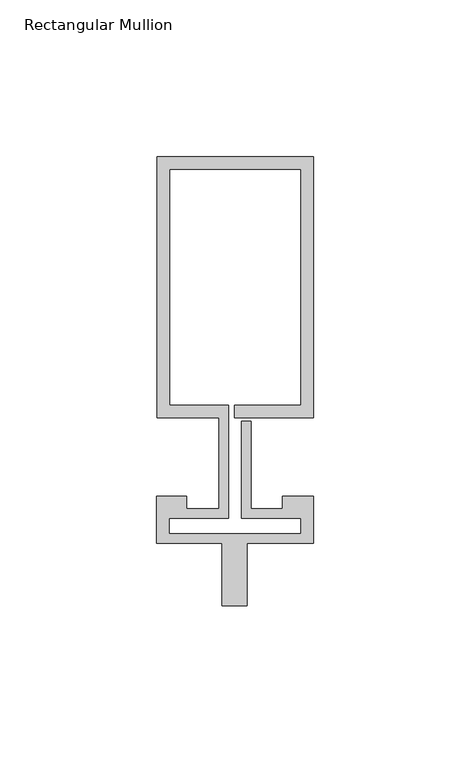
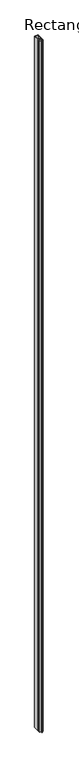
"""IFC4 building model written with IfcOpenShell, lengths in millimetres: member geometry, Rectangular Mullion : Reynaers_CW-50_Mullion-Transom_Vertical_83.5mm_Facecap-06A."""

import ifcopenshell
import ifcopenshell.guid

model = None  # the IFC model being written
_history = None  # IfcOwnerHistory: only IFC2X3 demands one
_inside = {}  # id of a spatial element -> (the spatial element, [elements in it])
_under = {}  # id of a project, library or spatial element -> (it, [spatial elements below it])
_declared = {}  # id of a project -> (the project, [libraries it declares])
_typed = {}  # id of a type object -> (the type object, [elements of that type])
_made_of = {}  # id of a material, layer set ... -> (it, [elements and type objects made of it])


def new_model(schema):
    """Start an empty IFC model of exactly this schema.

    Asked for "IFC4X3", IfcOpenShell would pick the latest addendum, in which some entities
    have other attributes; the version numbers below select the first issue.
    IFC2X3 requires an IfcOwnerHistory on every rooted entity: one is made here for all.
    """
    global model, _history
    if schema == "IFC4X3":
        model = ifcopenshell.file(schema_version=(4, 3, 0, 0))
    else:
        model = ifcopenshell.file(schema=schema)
    _inside.clear()
    _under.clear()
    _declared.clear()
    _typed.clear()
    _made_of.clear()
    _history = None
    if model.schema == "IFC2X3":
        org = make("IfcOrganization", Name="unknown")
        user = make(
            "IfcPersonAndOrganization",
            ThePerson=make("IfcPerson", FamilyName="unknown"),
            TheOrganization=org,
        )
        app = make(
            "IfcApplication",
            ApplicationDeveloper=org,
            Version="unknown",
            ApplicationFullName="unknown",
            ApplicationIdentifier="unknown",
        )
        _history = make(
            "IfcOwnerHistory",
            OwningUser=user,
            OwningApplication=app,
            ChangeAction="ADDED",
            CreationDate=0,
        )
    return model


def make(cls, **values):
    """One entity of the class cls with the attributes given. An attribute that is None is left unset."""
    return model.create_entity(
        cls, **{name: value for name, value in values.items() if value is not None}
    )


def rooted(cls, **values):
    """An entity with a GlobalId (a new one), such as an element, a storey or a relation."""
    return make(cls, GlobalId=ifcopenshell.guid.new(), OwnerHistory=_history, **values)


def si_unit(unit_type, name, prefix=None):
    """IfcSIUnit, for example si_unit("LENGTHUNIT", "METRE", prefix="MILLI")."""
    return make("IfcSIUnit", UnitType=unit_type, Prefix=prefix, Name=name)


def assignment(units):
    """IfcUnitAssignment: the units of a project."""
    return None if units is None else make("IfcUnitAssignment", Units=units)


def point(xyz):
    """IfcCartesianPoint."""
    return None if xyz is None else make("IfcCartesianPoint", Coordinates=xyz)


def direction(xyz):
    """IfcDirection."""
    return None if xyz is None else make("IfcDirection", DirectionRatios=xyz)


def frame(location, z_axis=None, x_axis=None):
    """IfcAxis2Placement3D, a coordinate frame: its origin and axes. An axis left out is left unset."""
    return make(
        "IfcAxis2Placement3D",
        Location=point(location),
        Axis=direction(z_axis),
        RefDirection=direction(x_axis),
    )


def origin():
    """The frame at (0, 0, 0) with its axes left unset."""
    return frame((0.0, 0.0, 0.0))


def place(relative_to, where):
    """IfcLocalPlacement: puts the frame where relative to a parent placement (None: the world)."""
    return make(
        "IfcLocalPlacement", PlacementRelTo=relative_to, RelativePlacement=where
    )


def context(
    kind, dimensions, precision=None, world=None, true_north=None, identifier=None
):
    """IfcGeometricRepresentationContext, for example the 3D "Model" context."""
    return make(
        "IfcGeometricRepresentationContext",
        ContextIdentifier=identifier,
        ContextType=kind,
        CoordinateSpaceDimension=dimensions,
        Precision=precision,
        WorldCoordinateSystem=world,
        TrueNorth=true_north,
    )


def project(units=None, contexts=None):
    """IfcProject with its units and contexts."""
    return rooted(
        "IfcProject",
        Name="project",
        RepresentationContexts=contexts,
        UnitsInContext=assignment(units),
    )


def spatial(cls, under=None, at=None, **own):
    """A site, building, storey or space (cls), placed at a placement, below another one or the project."""
    s = rooted(cls, ObjectPlacement=at, **own)
    if under is not None:
        _under.setdefault(under.id(), (under, []))[1].append(s)
    return s


def polyline(points):
    """IfcPolyline through the points."""
    return make("IfcPolyline", Points=[point(p) for p in points])


def outline(outer, holes=None, kind="AREA"):
    """IfcArbitraryClosedProfileDef: a profile drawn as a closed curve; with holes, ...WithVoids."""
    if holes is None:
        return make("IfcArbitraryClosedProfileDef", ProfileType=kind, OuterCurve=outer)
    return make(
        "IfcArbitraryProfileDefWithVoids",
        ProfileType=kind,
        OuterCurve=outer,
        InnerCurves=holes,
    )


def extrude(swept, where, along, depth):
    """IfcExtrudedAreaSolid: the profile swept, set in the frame where, extruded along a direction by depth."""
    return make(
        "IfcExtrudedAreaSolid",
        SweptArea=swept,
        Position=where,
        ExtrudedDirection=direction(along),
        Depth=depth,
    )


def shape(context_of_items, identifier, shape_type, items):
    """IfcShapeRepresentation: the items that make up one representation, for example the "Body"."""
    return make(
        "IfcShapeRepresentation",
        ContextOfItems=context_of_items,
        RepresentationIdentifier=identifier,
        RepresentationType=shape_type,
        Items=items,
    )


def source(mapping_origin, context_of_items, identifier, shape_type, items):
    """IfcRepresentationMap: a shape defined once, which mapped items show again and again."""
    return make(
        "IfcRepresentationMap",
        MappingOrigin=mapping_origin,
        MappedRepresentation=shape(context_of_items, identifier, shape_type, items),
    )


def transform(
    local_origin,
    x_axis=None,
    y_axis=None,
    z_axis=None,
    scale=None,
    scale2=None,
    scale3=None,
    uniform=True,
):
    """IfcCartesianTransformationOperator3D, or its non-uniform kind. x_axis, y_axis, z_axis: its Axis1, 2, 3."""
    if uniform:
        return make(
            "IfcCartesianTransformationOperator3D",
            Axis1=direction(x_axis),
            Axis2=direction(y_axis),
            LocalOrigin=point(local_origin),
            Scale=scale,
            Axis3=direction(z_axis),
        )
    return make(
        "IfcCartesianTransformationOperator3DnonUniform",
        Axis1=direction(x_axis),
        Axis2=direction(y_axis),
        LocalOrigin=point(local_origin),
        Scale=scale,
        Axis3=direction(z_axis),
        Scale2=scale2,
        Scale3=scale3,
    )


def mapped(mapping_source, mapping_target):
    """IfcMappedItem: shows the shape of a source again, moved by a transform."""
    return make(
        "IfcMappedItem", MappingSource=mapping_source, MappingTarget=mapping_target
    )


def made_of(thing, what):
    """Note that an element or type object is made of a material, layer set ...; save() writes the relation."""
    if what is not None:
        _made_of.setdefault(what.id(), (what, []))[1].append(thing)
    return thing


def element(
    cls,
    number,
    at=None,
    inside=None,
    cuts=None,
    type_object=None,
    material=None,
    context=None,
    identifier="Body",
    shape_type=None,
    held_by="IfcProductDefinitionShape",
    body=None,
    shapes=None,
    **own,
):
    """One element of the class cls, such as IfcWall. Its Tag is "e" and its number.

    at: its placement. inside: the storey or other place that contains it. cuts: it is an
    opening in that element (IfcRelVoidsElement). A single representation is given by context,
    identifier, shape_type and body (its items); several are given by shapes. held_by: the class
    of the entity that holds the representations. save() writes the other relations.
    """
    e = rooted(cls, Tag="e%d" % number, ObjectPlacement=at, **own)
    if body is not None:
        shapes = [shape(context, identifier, shape_type, body)]
    if shapes is not None:
        e.Representation = make(held_by, Representations=shapes)
    if inside is not None:
        _inside.setdefault(inside.id(), (inside, []))[1].append(e)
    if cuts is not None:
        rooted(
            "IfcRelVoidsElement", RelatingBuildingElement=cuts, RelatedOpeningElement=e
        )
    if type_object is not None:
        _typed.setdefault(type_object.id(), (type_object, []))[1].append(e)
    return made_of(e, material)


def aggregate(whole, parts):
    """IfcRelAggregates: a whole, such as a stair, and the parts it consists of."""
    return rooted("IfcRelAggregates", RelatingObject=whole, RelatedObjects=parts)


def save(model, path):
    """Write the relations noted so far, then the file.

    IfcRelAggregates (storeys below a building ...), IfcRelContainedInSpatialStructure (elements
    in a storey), IfcRelDefinesByType, IfcRelAssociatesMaterial and IfcRelDeclares: one each for
    every whole, place, type object, material and project.
    """
    for whole, parts in _under.values():
        aggregate(whole, parts)
    for where, things in _inside.values():
        rooted(
            "IfcRelContainedInSpatialStructure",
            RelatedElements=things,
            RelatingStructure=where,
        )
    for kind, things in _typed.values():
        rooted("IfcRelDefinesByType", RelatedObjects=things, RelatingType=kind)
    for what, things in _made_of.values():
        rooted("IfcRelAssociatesMaterial", RelatedObjects=things, RelatingMaterial=what)
    for by, libraries in _declared.values():
        rooted("IfcRelDeclares", RelatingContext=by, RelatedDefinitions=libraries)
    model.write(path)


def rectangular_mullion_fecff039(model_context):
    return source(origin(), model_context, "Body", "SweptSolid", [
        extrude(outline(polyline([(-24.8004059, 96.0), (25.1995941, 96.0), (25.1995941, 12.5), (0.0, 12.5), (0.0, 16.5), (21.1995941, 16.5), (21.1995941, 92.0), (-20.8004059, 92.0), (-20.8004059, 16.5), (-1.9004059, 16.5), (-1.9004059, -19.5), (-20.994845, -19.5), (-20.994845, -24.4191338), (21.1995941, -24.4191338), (21.1995941, -19.5), (2.2995941, -19.5), (2.2995941, 11.5), (5.2995941, 11.5), (5.2995941, -16.5), (15.2996495, -16.5), (15.2996495, -12.5), (25.1995941, -12.5), (25.1995941, -27.5), (4.004855, -27.5), (4.004855, -47.5), (-3.995145, -47.5), (-3.995145, -27.5), (-24.994845, -27.5), (-24.994845, -12.5), (-15.2996495, -12.5), (-15.2996495, -16.5), (-4.9004059, -16.5), (-4.9004059, 12.5), (-24.8004059, 12.5), (-24.8004059, 96.0)])), frame((0.0, 0.0, -10400.0), z_axis=(0.0, 0.0, 1.0), x_axis=(1.0, 0.0, 0.0)), (0.0, 0.0, 1.0), 10400.0),
    ])


if __name__ == "__main__":
    model = new_model("IFC4")
    model_context = context("Model", 3, world=origin())
    ifc_project = project(units=[si_unit("LENGTHUNIT", "METRE", prefix="MILLI")], contexts=[model_context])
    site = spatial("IfcSite", under=ifc_project)
    building = spatial("IfcBuilding", under=site)
    placement = place(None, origin())
    rectangular_mullion_shape = rectangular_mullion_fecff039(model_context)
    element("IfcMember", 1, ObjectType="Rectangular Mullion : Reynaers_CW-50_Mullion-Transom_Vertical_83.5mm_Facecap-06A", at=placement, inside=building, context=model_context, shape_type="MappedRepresentation", body=[
        mapped(rectangular_mullion_shape, transform((0.0, 0.0, 0.0), x_axis=(1.0, 0.0, 0.0), y_axis=(0.0, 1.0, 0.0), z_axis=(0.0, 0.0, 1.0))),
    ])
    save(model, "model.ifc")
